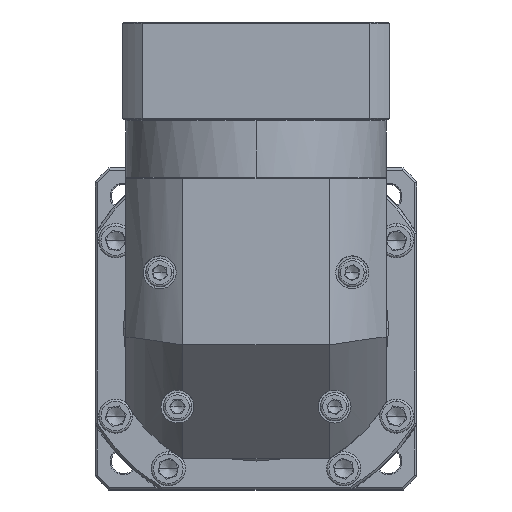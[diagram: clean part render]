
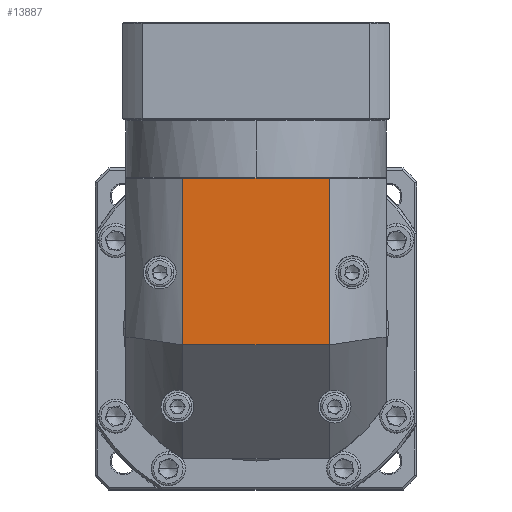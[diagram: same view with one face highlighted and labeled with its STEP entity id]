
A CAD part, top view. The second image highlights one B-rep face of the part: STEP entity #13887.
In plain terms, the highlighted planar face has unit normal (0, 0, 1).
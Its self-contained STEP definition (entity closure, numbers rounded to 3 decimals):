
#1066 = VERTEX_POINT ( 'NONE', #23415 ) ;
#3671 = CARTESIAN_POINT ( 'NONE',  ( -135.109, 61.243, 53.672 ) ) ;
#9145 = VERTEX_POINT ( 'NONE', #45857 ) ;
#11378 = CARTESIAN_POINT ( 'NONE',  ( -70.309, 61.243, 53.672 ) ) ;
#13887 = ADVANCED_FACE ( 'NONE', ( #37078 ), #30531, .F. ) ;
#18986 = CARTESIAN_POINT ( 'NONE',  ( -102.709, 118.743, 53.672 ) ) ;
#23415 = CARTESIAN_POINT ( 'NONE',  ( -70.309, 111.243, 53.672 ) ) ;
#25759 = AXIS2_PLACEMENT_3D ( 'NONE', #18986, #74786, #98178 ) ;
#30531 = PLANE ( 'NONE',  #25759 ) ;
#34350 = DIRECTION ( 'NONE',  ( 0., -1., 0. ) ) ;
#37078 = FACE_OUTER_BOUND ( 'NONE', #72998, .T. ) ;
#37696 = ORIENTED_EDGE ( 'NONE', *, *, #94203, .F. ) ;
#45857 = CARTESIAN_POINT ( 'NONE',  ( -135.109, 184.643, 53.672 ) ) ;
#51467 = ORIENTED_EDGE ( 'NONE', *, *, #130064, .F. ) ;
#57160 = VECTOR ( 'NONE', #102717, 1000. ) ;
#58562 = VERTEX_POINT ( 'NONE', #137709 ) ;
#59354 = CARTESIAN_POINT ( 'NONE',  ( -160.209, 111.243, 53.672 ) ) ;
#63971 = EDGE_CURVE ( 'NONE', #9145, #65132, #104169, .T. ) ;
#65132 = VERTEX_POINT ( 'NONE', #141464 ) ;
#72998 = EDGE_LOOP ( 'NONE', ( #37696, #51467, #84316, #90556 ) ) ;
#74275 = VECTOR ( 'NONE', #140534, 1000. ) ;
#74786 = DIRECTION ( 'NONE',  ( 0., 0., -1. ) ) ;
#84316 = ORIENTED_EDGE ( 'NONE', *, *, #100176, .F. ) ;
#89660 = VECTOR ( 'NONE', #34350, 1000. ) ;
#90556 = ORIENTED_EDGE ( 'NONE', *, *, #63971, .F. ) ;
#94203 = EDGE_CURVE ( 'NONE', #58562, #9145, #95725, .T. ) ;
#95725 = LINE ( 'NONE', #3671, #74275 ) ;
#98178 = DIRECTION ( 'NONE',  ( 1., 0., 0. ) ) ;
#100176 = EDGE_CURVE ( 'NONE', #65132, #1066, #134208, .T. ) ;
#102717 = DIRECTION ( 'NONE',  ( -1., 0., 0. ) ) ;
#104169 = LINE ( 'NONE', #120130, #145125 ) ;
#117690 = LINE ( 'NONE', #59354, #57160 ) ;
#120130 = CARTESIAN_POINT ( 'NONE',  ( -160.209, 184.643, 53.672 ) ) ;
#130064 = EDGE_CURVE ( 'NONE', #1066, #58562, #117690, .T. ) ;
#130616 = DIRECTION ( 'NONE',  ( 1., 0., 0. ) ) ;
#134208 = LINE ( 'NONE', #11378, #89660 ) ;
#137709 = CARTESIAN_POINT ( 'NONE',  ( -135.109, 111.243, 53.672 ) ) ;
#140534 = DIRECTION ( 'NONE',  ( 0., 1., 0. ) ) ;
#141464 = CARTESIAN_POINT ( 'NONE',  ( -70.309, 184.643, 53.672 ) ) ;
#145125 = VECTOR ( 'NONE', #130616, 1000. ) ;
